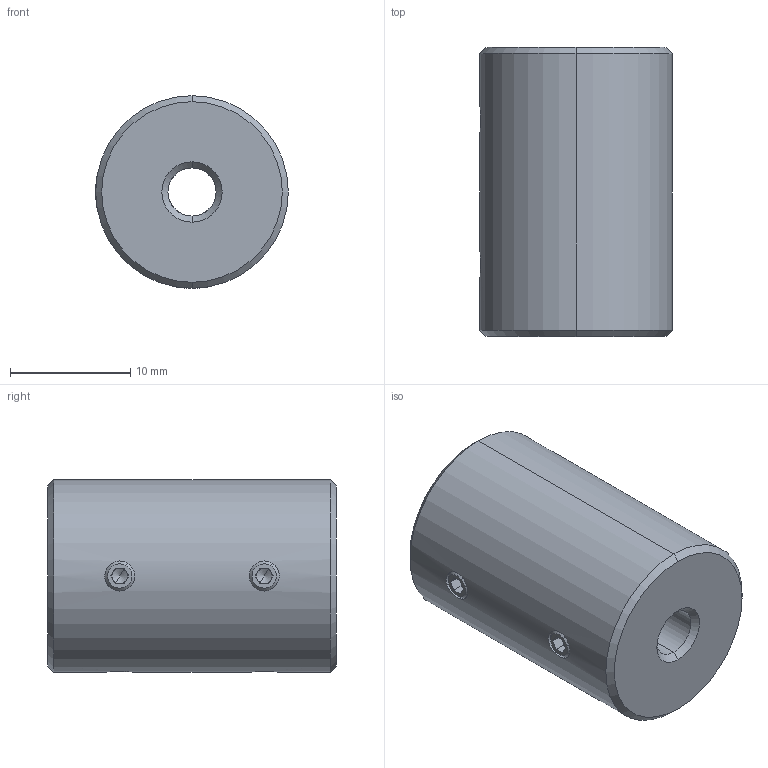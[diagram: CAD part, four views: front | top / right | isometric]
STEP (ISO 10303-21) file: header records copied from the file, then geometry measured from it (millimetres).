
FILE_DESCRIPTION (( 'STEP AP214' ), '1' );
FILE_NAME ('LL-D-D16L24-4-6.35.STEP', '2022-07-23T07:00:44', ( '' ), ( '' ), 'SwSTEP 2.0', 'SolidWorks 2022', '' );
FILE_SCHEMA (( 'AUTOMOTIVE_DESIGN' ));
Length unit declared in the file: millimetre
Products named in the file (1): LL-D-D16L24-4-6.35
Bounding box: 16 x 24 x 16 mm (x, y, z)
Volume: 4237.2 mm3; surface area: 2035.8 mm2
Topology: 1 solids, 1 shells, 113 faces, 286 edges, 176 vertices
Faces by surface type: plane 59, cone 32, cylinder 22
Entity records: 3638 total; most frequent: CARTESIAN_POINT 888, DIRECTION 582, ORIENTED_EDGE 556, EDGE_CURVE 278, AXIS2_PLACEMENT_3D 214, VERTEX_POINT 176, LINE 154, VECTOR 154
